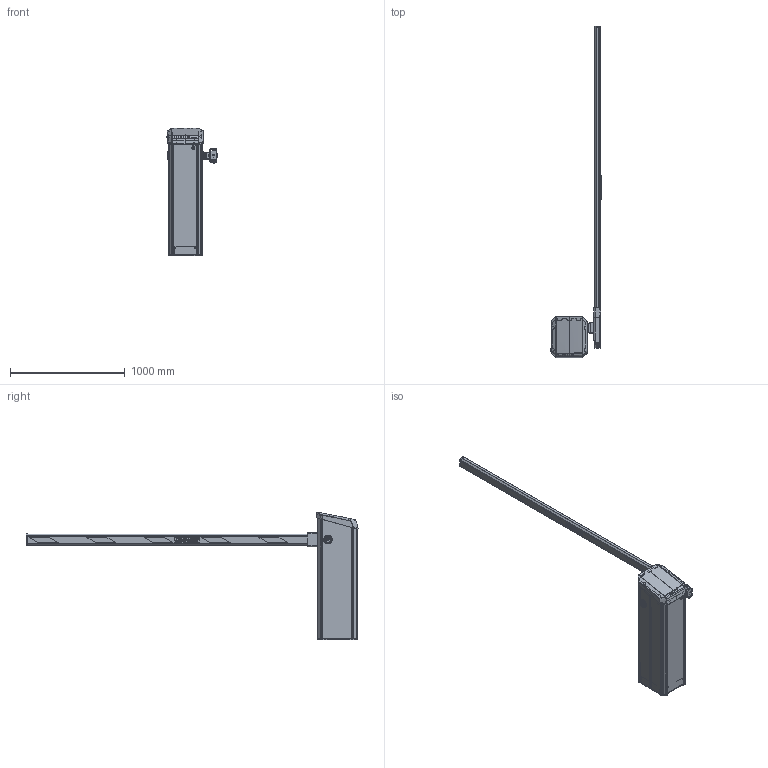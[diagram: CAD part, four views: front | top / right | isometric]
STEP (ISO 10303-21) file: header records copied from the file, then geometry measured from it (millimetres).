
FILE_DESCRIPTION(/* description */ ('Unknown'),/* implementation_level */ '2;1');
FILE_NAME(/* name */ '55860014_01',/* time_stamp */ '2023-03-07T07:03:55+01:00',/* author */ ('Unknown'),/* organization */ ('Unknown'),/* preprocessor_version */ 'ST-DEVELOPER v18.102',/* originating_system */ 'Solid Edge',/* authorisation */ 'Unknown');
FILE_SCHEMA (('AUTOMOTIVE_DESIGN {1 0 10303 214 3 1 1}'));
Products named in the file (62): 55860014; TOLL-L-HUELLE; 20435761; 20186029; 10335028; 20695070; 20375010; 10085135; 20695057; 34745013; 20345347; 20345348; 10085135-Dichtung; 10435374; 20435667; 34685017; 34685017a; 34685017c; 34685017b; 34685017d; 20585064; 20415077; 20415077a; 20415077b; 20775050; 20775051; 21085025; 20165183; 10145080; 10145080a; 20040010; 21085024; 30545011; 20195100; 10405014; 20405757; 31475004_10405014; 32240037-10405014; 31475004_10405014c; 31475004_10405014b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
Assembly tree (98 placements, depth 5):
  55860014
    TOLL-L-HUELLE
      20435761
      20186029
      10335028  x2
        20695070
        20375010
      10085135
        20695057
        34745013  x5
        20345347
        20345348
        10085135-Dichtung
      10435374
        20435667
        34685017
          34685017a
          34685017c
          34685017b
          34685017d
        20585064
      20415077
        20415077a
        20415077b
      20775050  x2
      20775051  x2
      21085025
      20165183
      10145080
        10145080a
        20040010
      21085024
      30545011
      20195100  x2
      10405014
        20405757
        31475004_10405014  x2
        32240037-10405014  x2
        31475004_10405014c
        31475004_10405014b
      20695069  x4
    10315052
      10145004
        10145004a
        10140044b
      20410041  x2
      20170267
      34905001  x6
      35000008  x2
      30980023  x2
      34840054  x2
      30985000  x2
      34840071  x2
    55860006_Baum_2619
      55155397_2619
        55155397_2619
        20115008  x2
        34915000  x2
        20180409  x2
        20185229  x6
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Bounding box: 436.27 x 2894.89 x 1115.92 mm (x, y, z)
Volume: 9739060 mm3; surface area: 6647933.8 mm2
Topology: 87 solids, 87 shells, 5565 faces, 14433 edges, 9168 vertices
Faces by surface type: plane 3052, cylinder 1554, bspline 392, cone 268, torus 262, sphere 37
Full cylindrical faces by diameter (mm): 1.5 x3, 1.8 x2, 3 x4, 3.14 x6, 3.2 x1, 3.3 x6, 3.5 x5, 3.6 x4, 3.65 x4, 3.9 x6, 4 x12, 4.134 x2, 4.5 x6, 4.773 x5, 4.9 x3, 4.917 x2, 5.5 x4, 6 x10, 6.466 x2, 6.5 x9, 6.8 x2, 7 x2, 7.1 x2, 8 x10, 8.16 x2, 8.4 x2, 8.5 x4, 9 x4, 10 x10, 10.2 x1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
Entity records: 129808 total; most frequent: CARTESIAN_POINT 30947, ORIENTED_EDGE 19226, DIRECTION 18930, EDGE_CURVE 9613, AXIS2_PLACEMENT_3D 6387, VERTEX_POINT 6225, LINE 6156, VECTOR 6156
